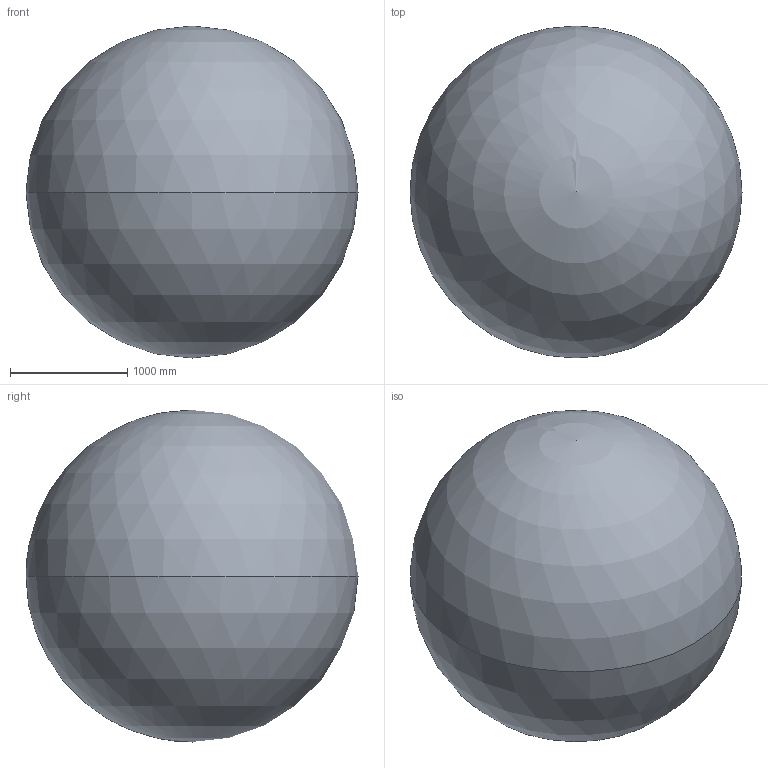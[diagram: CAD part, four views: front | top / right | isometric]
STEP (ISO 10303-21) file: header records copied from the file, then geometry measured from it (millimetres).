
FILE_DESCRIPTION (( 'STEP AP203' ), '1' );
FILE_NAME ('knurl3.STEP', '2018-06-30T02:11:00', ( 'default' ), ( '' ), 'SwSTEP 2.0', 'SolidWorks 2017', '' );
FILE_SCHEMA (( 'CONFIG_CONTROL_DESIGN' ));
Length unit declared in the file: inch
Products named in the file (1): knurl3
Bounding box: 2828.15 x 2828.15 x 2828.15 mm (x, y, z)
Volume: 11982049254.8 mm3; surface area: 27568514.2 mm2
Topology: 2 solids, 2 shells, 4503 faces, 9126 edges, 4623 vertices
Faces by surface type: bspline 3500, cylinder 794, plane 201, cone 6, sphere 2
Entity records: 208819 total; most frequent: CARTESIAN_POINT 145540, ORIENTED_EDGE 18238, EDGE_CURVE 9119, B_SPLINE_CURVE_WITH_KNOTS 8636, VERTEX_POINT 4620, ADVANCED_FACE 4503, FACE_OUTER_BOUND 4503, EDGE_LOOP 4503
